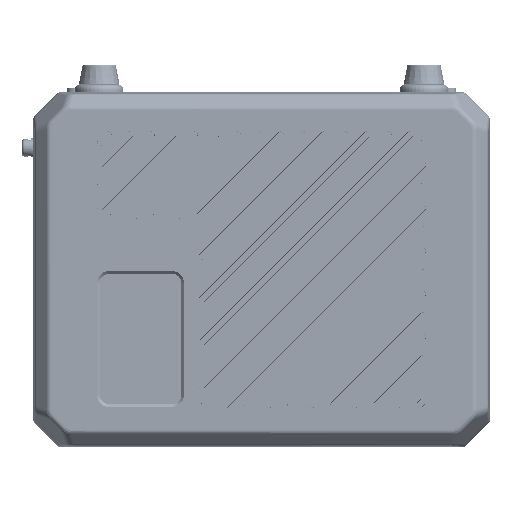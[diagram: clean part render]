
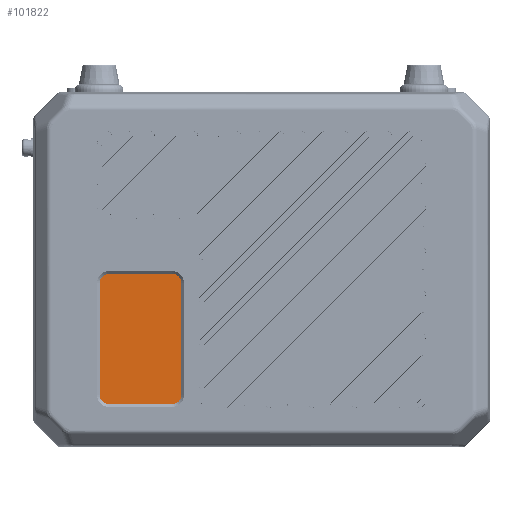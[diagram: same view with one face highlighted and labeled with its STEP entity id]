
A CAD part, front view. The second image highlights one B-rep face of the part: STEP entity #101822.
In plain terms, the highlighted planar face has unit normal (0, -1, 0).
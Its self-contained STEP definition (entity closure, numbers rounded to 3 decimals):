
#30241=DIRECTION('',(1.,0.,0.));
#30242=VECTOR('',#30241,24.8);
#30243=CARTESIAN_POINT('',(-60.1,-166.5,-1.607));
#30244=LINE('',#30243,#30242);
#30257=DIRECTION('',(0.,0.,-1.));
#30258=VECTOR('',#30257,44.);
#30259=CARTESIAN_POINT('',(-31.607,-166.5,-5.3));
#30260=LINE('',#30259,#30258);
#30273=DIRECTION('',(-1.,0.,0.));
#30274=VECTOR('',#30273,24.8);
#30275=CARTESIAN_POINT('',(-35.3,-166.5,-52.993));
#30276=LINE('',#30275,#30274);
#30293=CARTESIAN_POINT('',(-60.1,-166.5,-5.3));
#30294=DIRECTION('',(0.,-1.,0.));
#30295=DIRECTION('',(0.,0.,1.));
#30296=AXIS2_PLACEMENT_3D('',#30293,#30294,#30295);
#30298=CARTESIAN_POINT('',(-35.3,-166.5,-5.3));
#30299=DIRECTION('',(0.,-1.,0.));
#30300=DIRECTION('',(1.,0.,0.));
#30301=AXIS2_PLACEMENT_3D('',#30298,#30299,#30300);
#30303=CARTESIAN_POINT('',(-35.3,-166.5,-49.3));
#30304=DIRECTION('',(0.,-1.,0.));
#30305=DIRECTION('',(0.,0.,-1.));
#30306=AXIS2_PLACEMENT_3D('',#30303,#30304,#30305);
#30308=CARTESIAN_POINT('',(-60.1,-166.5,-49.3));
#30309=DIRECTION('',(0.,-1.,0.));
#30310=DIRECTION('',(-1.,0.,0.));
#30311=AXIS2_PLACEMENT_3D('',#30308,#30309,#30310);
#30313=DIRECTION('',(0.,0.,-1.));
#30314=VECTOR('',#30313,44.);
#30315=CARTESIAN_POINT('',(-63.793,-166.5,-5.3));
#30316=LINE('',#30315,#30314);
#57704=CARTESIAN_POINT('',(-63.793,-166.5,-5.3));
#57705=CARTESIAN_POINT('',(-63.793,-166.5,-49.3));
#57706=VERTEX_POINT('',#57704);
#57707=VERTEX_POINT('',#57705);
#57708=CARTESIAN_POINT('',(-60.1,-166.5,-1.607));
#57709=CARTESIAN_POINT('',(-35.3,-166.5,-1.607));
#57710=VERTEX_POINT('',#57708);
#57711=VERTEX_POINT('',#57709);
#57712=CARTESIAN_POINT('',(-31.607,-166.5,-5.3));
#57713=VERTEX_POINT('',#57712);
#57714=CARTESIAN_POINT('',(-31.607,-166.5,-49.3));
#57715=VERTEX_POINT('',#57714);
#57716=CARTESIAN_POINT('',(-35.3,-166.5,-52.993));
#57717=VERTEX_POINT('',#57716);
#57718=CARTESIAN_POINT('',(-60.1,-166.5,-52.993));
#57719=VERTEX_POINT('',#57718);
#101807=CARTESIAN_POINT('',(0.,-166.5,0.));
#101808=DIRECTION('',(0.,1.,0.));
#101809=DIRECTION('',(1.,0.,0.));
#101810=AXIS2_PLACEMENT_3D('',#101807,#101808,#101809);
#101811=PLANE('',#101810);
#101812=ORIENTED_EDGE('',*,*,#101702,.F.);
#101813=ORIENTED_EDGE('',*,*,#101717,.T.);
#101814=ORIENTED_EDGE('',*,*,#101731,.F.);
#101815=ORIENTED_EDGE('',*,*,#101745,.T.);
#101816=ORIENTED_EDGE('',*,*,#101759,.F.);
#101817=ORIENTED_EDGE('',*,*,#101773,.T.);
#101818=ORIENTED_EDGE('',*,*,#101787,.F.);
#101819=ORIENTED_EDGE('',*,*,#101800,.F.);
#101820=EDGE_LOOP('',(#101812,#101813,#101814,#101815,#101816,#101817,#101818,
#101819));
#101821=FACE_OUTER_BOUND('',#101820,.F.);
#30297=CIRCLE('',#30296,3.693);
#30302=CIRCLE('',#30301,3.693);
#30307=CIRCLE('',#30306,3.693);
#30312=CIRCLE('',#30311,3.693);
#101702=EDGE_CURVE('',#57710,#57706,#30297,.T.);
#101717=EDGE_CURVE('',#57710,#57711,#30244,.T.);
#101731=EDGE_CURVE('',#57713,#57711,#30302,.T.);
#101745=EDGE_CURVE('',#57713,#57715,#30260,.T.);
#101759=EDGE_CURVE('',#57717,#57715,#30307,.T.);
#101773=EDGE_CURVE('',#57717,#57719,#30276,.T.);
#101787=EDGE_CURVE('',#57707,#57719,#30312,.T.);
#101800=EDGE_CURVE('',#57706,#57707,#30316,.T.);
#101822=ADVANCED_FACE('',(#101821),#101811,.F.);
